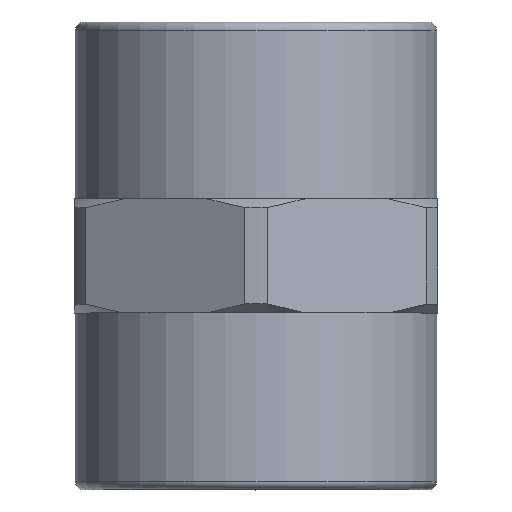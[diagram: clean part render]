
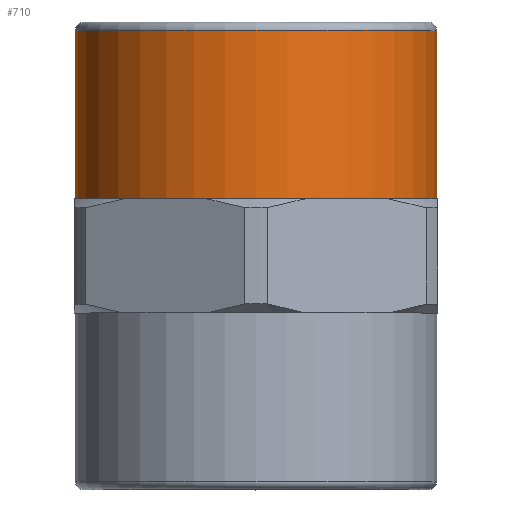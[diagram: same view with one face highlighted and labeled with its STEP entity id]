
A CAD part, top view. The second image highlights one B-rep face of the part: STEP entity #710.
In plain terms, the highlighted cylindrical face has radius 11.049 mm (diameter 22.098 mm), a full revolution.
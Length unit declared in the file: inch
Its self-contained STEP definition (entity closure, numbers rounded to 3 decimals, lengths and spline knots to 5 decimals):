
#31=CYLINDRICAL_SURFACE('',#808,0.435);
#74=CIRCLE('',#802,0.435);
#75=CIRCLE('',#803,0.435);
#76=CIRCLE('',#805,0.435);
#78=CIRCLE('',#807,0.435);
#133=FACE_OUTER_BOUND('',#176,.T.);
#176=EDGE_LOOP('',(#633,#634,#635,#636,#637,#638));
#212=LINE('',#1284,#243);
#243=VECTOR('',#1009,0.435);
#334=VERTEX_POINT('',#1273);
#335=VERTEX_POINT('',#1274);
#336=VERTEX_POINT('',#1278);
#337=VERTEX_POINT('',#1279);
#436=EDGE_CURVE('',#334,#335,#74,.T.);
#437=EDGE_CURVE('',#335,#334,#75,.T.);
#438=EDGE_CURVE('',#336,#337,#76,.T.);
#440=EDGE_CURVE('',#337,#336,#78,.T.);
#441=EDGE_CURVE('',#335,#337,#212,.T.);
#633=ORIENTED_EDGE('',*,*,#436,.F.);
#634=ORIENTED_EDGE('',*,*,#437,.F.);
#635=ORIENTED_EDGE('',*,*,#441,.T.);
#636=ORIENTED_EDGE('',*,*,#438,.F.);
#637=ORIENTED_EDGE('',*,*,#440,.F.);
#638=ORIENTED_EDGE('',*,*,#441,.F.);
#710=ADVANCED_FACE('',(#133),#31,.T.);
#802=AXIS2_PLACEMENT_3D('',#1275,#995,#996);
#803=AXIS2_PLACEMENT_3D('',#1276,#997,#998);
#805=AXIS2_PLACEMENT_3D('',#1280,#1001,#1002);
#807=AXIS2_PLACEMENT_3D('',#1282,#1005,#1006);
#808=AXIS2_PLACEMENT_3D('',#1283,#1007,#1008);
#995=DIRECTION('center_axis',(0.,-1.,0.));
#996=DIRECTION('ref_axis',(1.,0.,0.));
#997=DIRECTION('center_axis',(0.,-1.,0.));
#998=DIRECTION('ref_axis',(1.,0.,0.));
#1001=DIRECTION('center_axis',(0.,1.,0.));
#1002=DIRECTION('ref_axis',(0.,0.,1.));
#1005=DIRECTION('center_axis',(0.,1.,0.));
#1006=DIRECTION('ref_axis',(0.,0.,1.));
#1007=DIRECTION('center_axis',(0.,-1.,0.));
#1008=DIRECTION('ref_axis',(0.,0.,-1.));
#1009=DIRECTION('',(0.,1.,0.));
#1273=CARTESIAN_POINT('',(0.,0.7,-0.435));
#1274=CARTESIAN_POINT('',(0.,0.7,0.435));
#1275=CARTESIAN_POINT('Origin',(0.,0.7,0.));
#1276=CARTESIAN_POINT('Origin',(0.,0.7,0.));
#1278=CARTESIAN_POINT('',(0.,1.105,-0.435));
#1279=CARTESIAN_POINT('',(0.,1.105,0.435));
#1280=CARTESIAN_POINT('Origin',(0.,1.105,0.));
#1282=CARTESIAN_POINT('Origin',(0.,1.105,0.));
#1283=CARTESIAN_POINT('Origin',(0.,0.9125,0.));
#1284=CARTESIAN_POINT('',(0.,0.9125,0.435));
